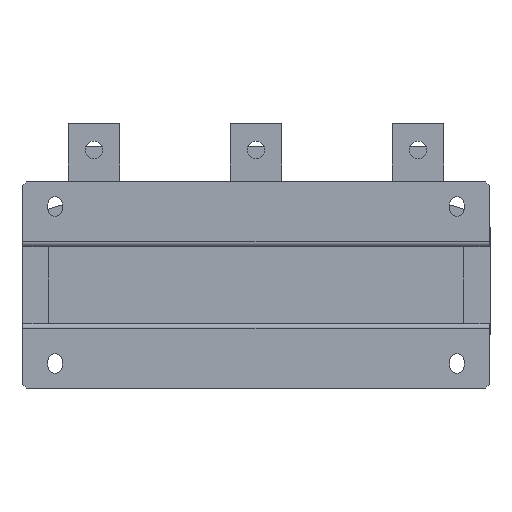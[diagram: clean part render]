
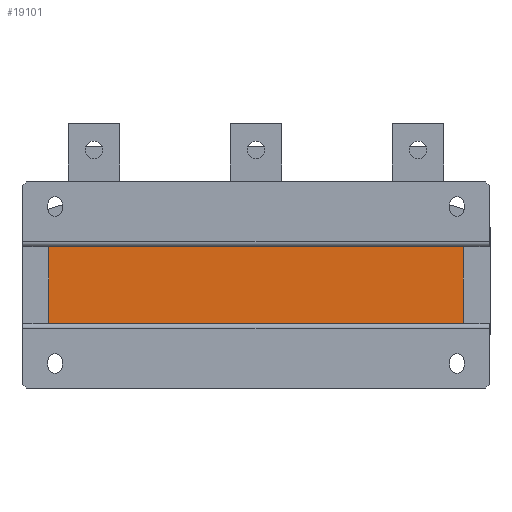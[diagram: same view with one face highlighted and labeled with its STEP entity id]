
A CAD part, front view. The second image highlights one B-rep face of the part: STEP entity #19101.
In plain terms, the highlighted planar face has unit normal (0, -1, 0).
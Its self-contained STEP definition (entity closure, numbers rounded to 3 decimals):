
#1734=LINE('',#30963,#3460);
#1815=LINE('',#31161,#3541);
#1892=LINE('',#31359,#3618);
#1894=LINE('',#31363,#3620);
#3460=VECTOR('',#24715,10.);
#3541=VECTOR('',#24922,10.);
#3618=VECTOR('',#25121,10.);
#3620=VECTOR('',#25127,10.);
#4591=PLANE('',#20568);
#5907=FACE_OUTER_BOUND('',#7208,.T.);
#7208=EDGE_LOOP('',(#16755,#16756,#16757,#16758));
#9299=VERTEX_POINT('',#30960);
#9300=VERTEX_POINT('',#30962);
#9353=VERTEX_POINT('',#31158);
#9354=VERTEX_POINT('',#31160);
#11670=EDGE_CURVE('',#9299,#9300,#1734,.T.);
#11770=EDGE_CURVE('',#9353,#9354,#1815,.T.);
#11871=EDGE_CURVE('',#9353,#9300,#1892,.T.);
#11873=EDGE_CURVE('',#9299,#9354,#1894,.T.);
#16755=ORIENTED_EDGE('',*,*,#11873,.T.);
#16756=ORIENTED_EDGE('',*,*,#11770,.F.);
#16757=ORIENTED_EDGE('',*,*,#11871,.T.);
#16758=ORIENTED_EDGE('',*,*,#11670,.F.);
#19101=ADVANCED_FACE('',(#5907),#4591,.T.);
#20568=AXIS2_PLACEMENT_3D('',#31383,#25160,#25161);
#24715=DIRECTION('',(-1.,0.,0.));
#24922=DIRECTION('',(1.,0.,0.));
#25121=DIRECTION('',(0.,0.,-1.));
#25127=DIRECTION('',(0.,0.,1.));
#25160=DIRECTION('center_axis',(0.,-1.,0.));
#25161=DIRECTION('ref_axis',(1.,0.,0.));
#30960=CARTESIAN_POINT('',(160.,-179.,-29.5));
#30962=CARTESIAN_POINT('',(-160.,-179.,-29.5));
#30963=CARTESIAN_POINT('',(160.,-179.,-29.5));
#31158=CARTESIAN_POINT('',(-160.,-179.,29.5));
#31160=CARTESIAN_POINT('',(160.,-179.,29.5));
#31161=CARTESIAN_POINT('',(160.,-179.,29.5));
#31359=CARTESIAN_POINT('',(-160.,-179.,0.));
#31363=CARTESIAN_POINT('',(160.,-179.,0.));
#31383=CARTESIAN_POINT('Origin',(-160.,-179.,0.));
